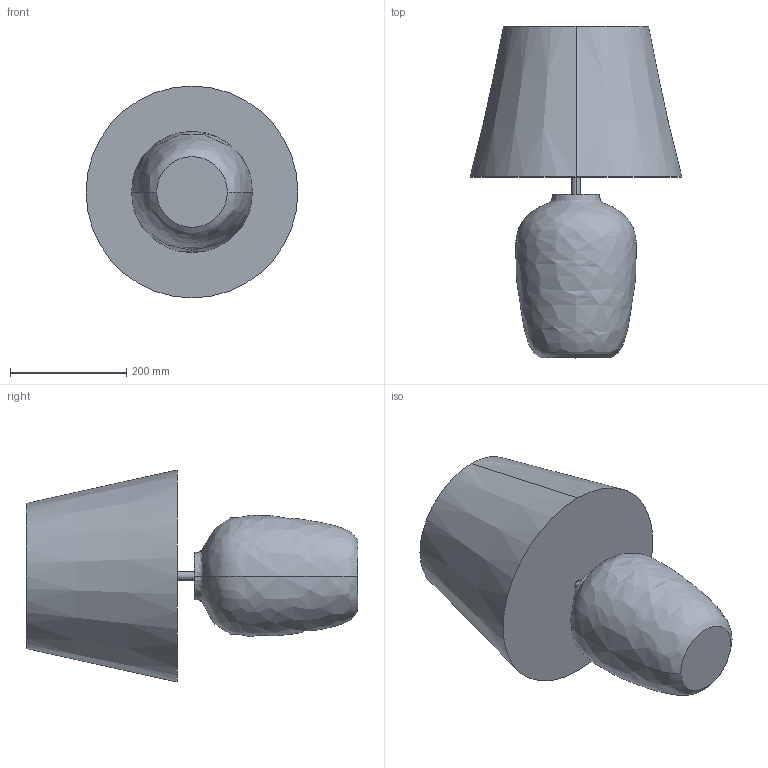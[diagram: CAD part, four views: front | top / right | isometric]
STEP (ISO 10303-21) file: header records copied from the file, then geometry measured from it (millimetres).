
FILE_DESCRIPTION (( 'STEP AP214' ), '1' );
FILE_NAME ('11_ory.STEP', '2016-10-07T09:04:01', ( 'Tripiodiy' ), ( '' ), 'SwSTEP 2.0', 'SolidWorks 2016', '' );
FILE_SCHEMA (( 'AUTOMOTIVE_DESIGN' ));
Length unit declared in the file: millimetre
Products named in the file (1): 11_ory
Bounding box: 365 x 571.67 x 365 mm (x, y, z)
Volume: 1637199.6 mm3; surface area: 1093710 mm2
Topology: 1 solids, 1 shells, 20 faces, 38 edges, 24 vertices
Faces by surface type: cone 6, plane 6, bspline 4, cylinder 4
Entity records: 1346 total; most frequent: CARTESIAN_POINT 905, DIRECTION 92, ORIENTED_EDGE 76, AXIS2_PLACEMENT_3D 41, EDGE_CURVE 38, CIRCLE 24, VERTEX_POINT 24, EDGE_LOOP 24
